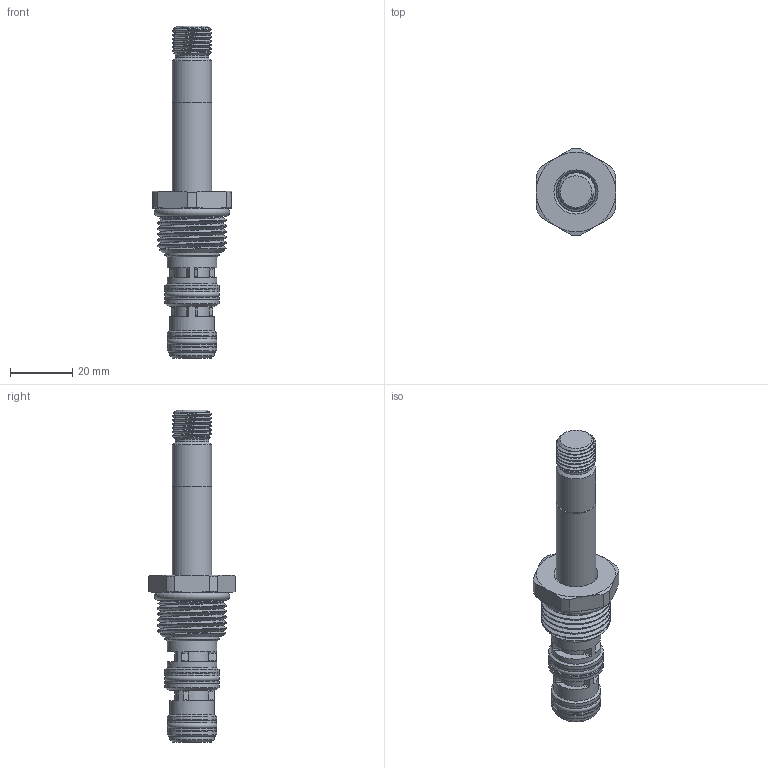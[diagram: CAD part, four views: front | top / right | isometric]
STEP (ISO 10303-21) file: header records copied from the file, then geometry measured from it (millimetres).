
FILE_DESCRIPTION(/* description */ ('','CAx-IF Rec.Pracs.---Representation and Presentation of Product Manufacturing Information (PMI)---4.0---2014-10-13'),/* implementation_level */ '2;1');
FILE_NAME(/* name */ 'P:\EARS\EAR16xx\EAR1683 - catalog pages changes\Group4a_4_Distributions_2_1_23\RTeck Agency_Tom_UNSENT\_step files\DFS3C00.stp',/* time_stamp */ '2023-02-03T08:49:09-06:00',/* author */ ('Michael'),/* organization */ (''),/* preprocessor_version */ 'ST-DEVELOPER v17.2',/* originating_system */ 'Autodesk Inventor 2019',/* authorisation */ '');
FILE_SCHEMA (('AP242_MANAGED_MODEL_BASED_3D_ENGINEERING_MIM_LF { 1 0 10303 442 1 1 4 }'));
Length unit declared in the file: inch
Products named in the file (1): DFS3C00
Bounding box: 25.4 x 27.74 x 106.31 mm (x, y, z)
Volume: 20408.7 mm3; surface area: 9063.4 mm2
Topology: 2 solids, 3 shells, 189 faces, 496 edges, 332 vertices
Faces by surface type: cylinder 65, plane 47, torus 39, cone 26, bspline 12
Full cylindrical faces by diameter (mm): 5.156 x1, 7.925 x1, 10.668 x1, 10.998 x1, 11.163 x1, 12.586 x1, 12.675 x1, 12.7 x5, 12.992 x2, 14.275 x2, 14.592 x2, 14.605 x2, 15.392 x2, 15.773 x2, 15.875 x1, 17.302 x2, 17.323 x1, 17.374 x2, 17.399 x1, 19.621 x2, 22.225 x4
Entity records: 12805 total; most frequent: CARTESIAN_POINT 7899, ORIENTED_EDGE 992, DIRECTION 988, EDGE_CURVE 496, AXIS2_PLACEMENT_3D 448, VERTEX_POINT 332, CIRCLE 270, EDGE_LOOP 220
